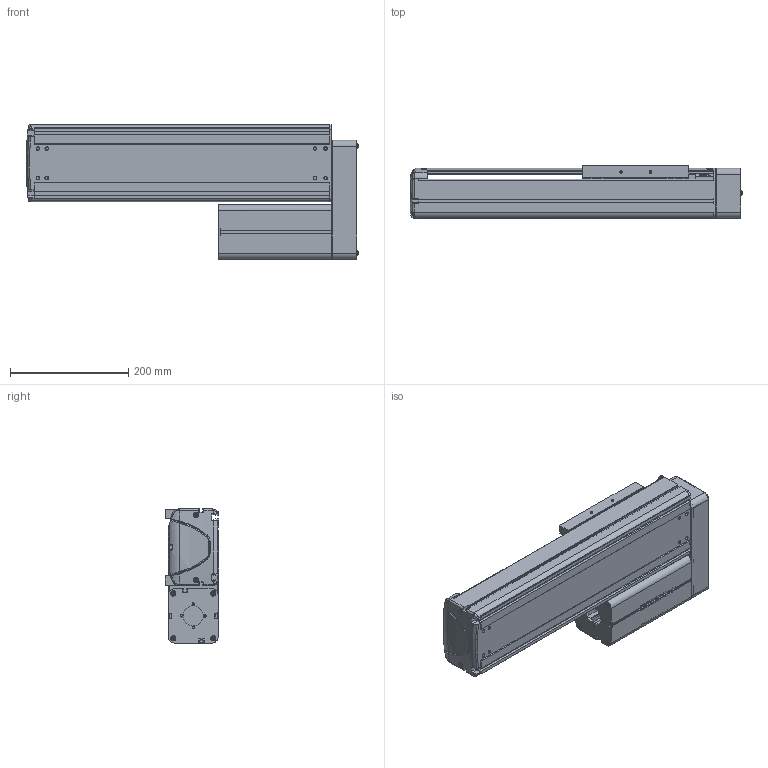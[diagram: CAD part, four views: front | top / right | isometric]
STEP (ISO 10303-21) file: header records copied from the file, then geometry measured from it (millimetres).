
FILE_DESCRIPTION((''),'2;1');
FILE_NAME('BE30E-UL-L_B-25_IGS_PRT','2017-06-17T',(' '),(''),'PRO/ENGINEER BY PARAMETRIC TECHNOLOGY CORPORATION, 2015030','PRO/ENGINEER BY PARAMETRIC TECHNOLOGY CORPORATION, 2015030','');
FILE_SCHEMA(('CONFIG_CONTROL_DESIGN'));
Products named in the file (1): BE30E-UL-L_B-25_IGS_PRT
Bounding box: 561.9 x 89.8 x 227 mm (x, y, z)
Volume: 2294418.8 mm3; surface area: 1014976.8 mm2
Topology: 2 solids, 108 shells, 1978 faces, 5311 edges, 3444 vertices
Faces by surface type: plane 993, cylinder 790, cone 101, torus 39, bspline 31, sphere 24
Entity records: 63892 total; most frequent: CARTESIAN_POINT 13547, DIRECTION 10637, ORIENTED_EDGE 10146, EDGE_CURVE 5273, AXIS2_PLACEMENT_3D 3721, VERTEX_POINT 3444, VECTOR 3195, LINE 3195
